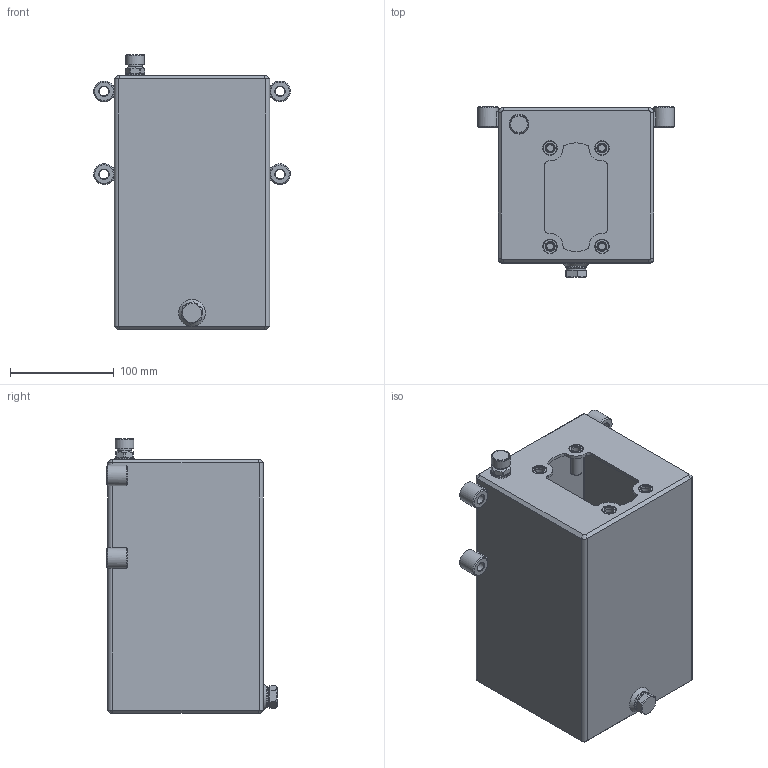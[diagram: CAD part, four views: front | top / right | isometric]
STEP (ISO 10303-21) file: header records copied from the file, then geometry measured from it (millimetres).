
FILE_DESCRIPTION(/* description */ ('Unknown'),/* implementation_level */ '2;1');
FILE_NAME(/* name */ 'SR05FE150',/* time_stamp */ '2024-11-28T10:29:07+01:00',/* author */ ('Unknown'),/* organization */ ('Unknown'),/* preprocessor_version */ 'ST-DEVELOPER v19.4',/* originating_system */ 'Solid Edge',/* authorisation */ 'Unknown');
FILE_SCHEMA (('AUTOMOTIVE_DESIGN {1 0 10303 214 3 1 1}'));
Length unit declared in the file: millimetre
Products named in the file (1): SR05FE150
Bounding box: 190 x 164.5 x 265.6 mm (x, y, z)
Volume: 565768.3 mm3; surface area: 375860.5 mm2
Topology: 2 solids, 2 shells, 263 faces, 616 edges, 383 vertices
Faces by surface type: plane 125, cylinder 73, cone 46, torus 19
Full cylindrical faces by diameter (mm): 5.8 x1, 6.647 x8, 9 x4, 9.15 x4, 10.5 x1, 10.88 x4, 10.9 x4, 13.157 x1, 13.2 x4, 13.5 x1, 15 x1, 16.8 x1, 17 x1, 18 x1, 19 x2, 20 x6, 20.1 x1
Entity records: 8471 total; most frequent: DIRECTION 1225, CARTESIAN_POINT 1144, ORIENTED_EDGE 944, AXIS2_PLACEMENT_3D 503, EDGE_CURVE 472, EDGE_LOOP 402, FACE_BOUND 402, VERTEX_POINT 340
